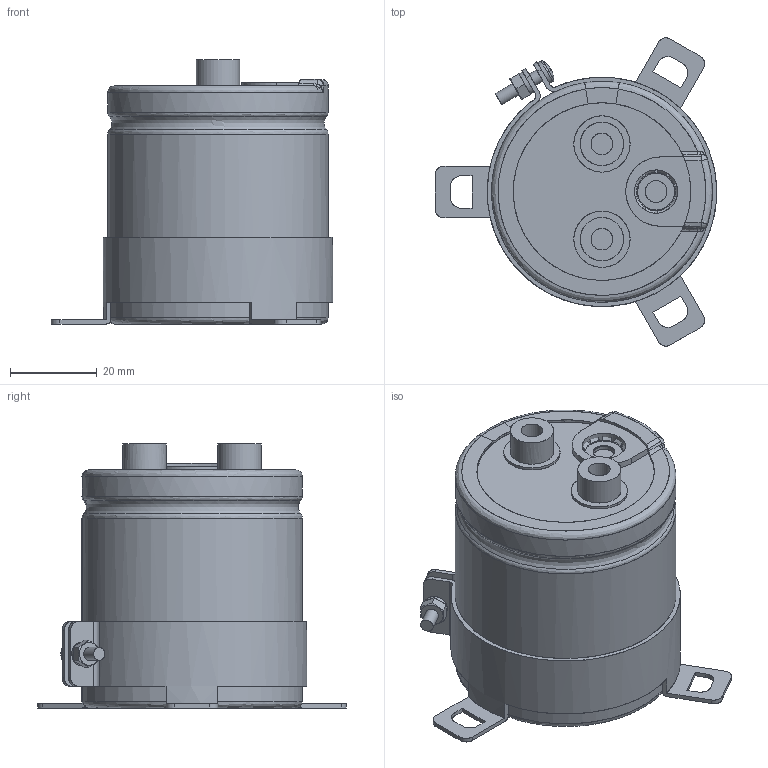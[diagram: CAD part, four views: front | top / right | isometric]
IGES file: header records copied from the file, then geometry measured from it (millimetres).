
Start section: JAMA-IS VERSION  1.0
Bounding box: 65 x 71.22 x 61 mm (x, y, z)
Surface area: 40990.3 mm2 (no closed solid volume)
Topology: 0 solids, 0 shells, 298 faces, 4625 edges, 4595 vertices
Faces by surface type: bspline 298
